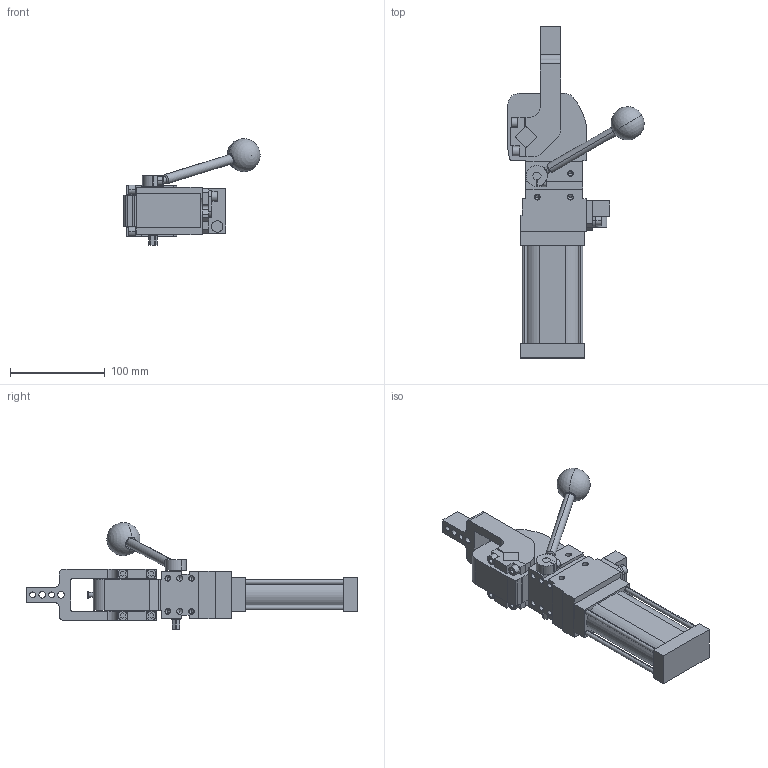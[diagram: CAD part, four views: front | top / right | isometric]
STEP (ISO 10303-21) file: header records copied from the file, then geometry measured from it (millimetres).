
FILE_DESCRIPTION (( 'STEP AP214' ), '1' );
FILE_NAME ('cplm40lah1csi1g_45.STEP', '2021-05-25T11:59:48', ( '' ), ( '' ), 'SwSTEP 2.0', 'SolidWorks 2021', '' );
FILE_SCHEMA (( 'AUTOMOTIVE_DESIGN' ));
Length unit declared in the file: millimetre
Products named in the file (6): piastra_blocchetto_cpl40; cplm40lah1csi1g_45; leva_v1c_cpl40; meccanica_cplm40; blocchetto_VEP_0_cpl40; comando_manuale_cplm_40
Assembly tree (5 placements, depth 2):
  cplm40lah1csi1g_45
    meccanica_cplm40
    leva_v1c_cpl40
    blocchetto_VEP_0_cpl40
    piastra_blocchetto_cpl40
    comando_manuale_cplm_40
Bounding box: 143.69 x 350 x 112.66 mm (x, y, z)
Volume: 807121.3 mm3; surface area: 126816 mm2
Topology: 6 solids, 6 shells, 496 faces, 1276 edges, 807 vertices
Faces by surface type: plane 287, cylinder 161, cone 46, sphere 2
Entity records: 16384 total; most frequent: CARTESIAN_POINT 2655, DIRECTION 2611, ORIENTED_EDGE 2458, EDGE_CURVE 1229, AXIS2_PLACEMENT_3D 882, VECTOR 847, LINE 847, VERTEX_POINT 804
